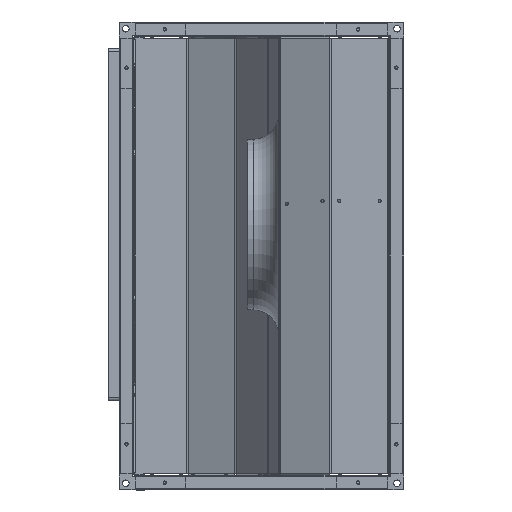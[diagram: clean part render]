
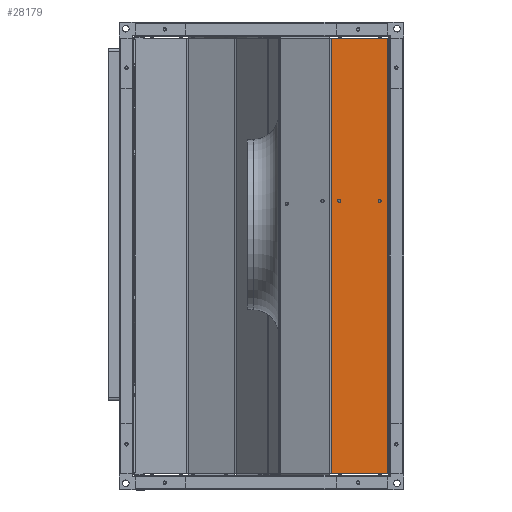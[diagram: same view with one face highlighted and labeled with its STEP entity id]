
A CAD part, left-side view. The second image highlights one B-rep face of the part: STEP entity #28179.
In plain terms, the highlighted planar face has unit normal (-1, 0, 0).
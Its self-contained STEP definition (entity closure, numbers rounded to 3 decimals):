
#240 = EDGE_LOOP ( 'NONE', ( #13519, #13431, #13414, #13433 ) ) ;
#2023 = AXIS2_PLACEMENT_3D ( 'NONE', #31959, #31234, #31221 ) ;
#2112 = AXIS2_PLACEMENT_3D ( 'NONE', #30567, #30565, #30563 ) ;
#2113 = AXIS2_PLACEMENT_3D ( 'NONE', #30560, #30558, #30556 ) ;
#3297 = DIRECTION ( 'NONE',  ( 0., -1., 0. ) ) ;
#3299 = PLANE ( 'NONE',  #26597 ) ;
#3302 = CARTESIAN_POINT ( 'NONE',  ( -293.5, 1., 299. ) ) ;
#3305 = DIRECTION ( 'NONE',  ( -1., 0., 0. ) ) ;
#6883 = EDGE_LOOP ( 'NONE', ( #13498, #13483 ) ) ;
#6958 = EDGE_LOOP ( 'NONE', ( #13443, #13485 ) ) ;
#7971 = VERTEX_POINT ( 'NONE', #25360 ) ;
#8619 = EDGE_CURVE ( 'NONE', #12672, #12896, #14626, .T. ) ;
#8697 = EDGE_CURVE ( 'NONE', #12746, #13327, #14513, .T. ) ;
#8892 = EDGE_CURVE ( 'NONE', #12949, #12746, #14252, .T. ) ;
#9235 = EDGE_CURVE ( 'NONE', #13327, #12010, #13988, .T. ) ;
#9589 = EDGE_CURVE ( 'NONE', #7971, #12769, #13706, .T. ) ;
#9840 = EDGE_CURVE ( 'NONE', #12010, #12949, #32677, .T. ) ;
#9979 = EDGE_CURVE ( 'NONE', #12896, #12672, #32573, .T. ) ;
#9980 = EDGE_CURVE ( 'NONE', #12769, #7971, #32571, .T. ) ;
#10879 = AXIS2_PLACEMENT_3D ( 'NONE', #31324, #31394, #31430 ) ;
#12010 = VERTEX_POINT ( 'NONE', #19380 ) ;
#12672 = VERTEX_POINT ( 'NONE', #19852 ) ;
#12746 = VERTEX_POINT ( 'NONE', #19744 ) ;
#12769 = VERTEX_POINT ( 'NONE', #19728 ) ;
#12896 = VERTEX_POINT ( 'NONE', #19606 ) ;
#12949 = VERTEX_POINT ( 'NONE', #19562 ) ;
#13327 = VERTEX_POINT ( 'NONE', #19436 ) ;
#13414 = ORIENTED_EDGE ( 'NONE', *, *, #8892, .T. ) ;
#13431 = ORIENTED_EDGE ( 'NONE', *, *, #9840, .T. ) ;
#13433 = ORIENTED_EDGE ( 'NONE', *, *, #8697, .T. ) ;
#13443 = ORIENTED_EDGE ( 'NONE', *, *, #9979, .F. ) ;
#13483 = ORIENTED_EDGE ( 'NONE', *, *, #9589, .F. ) ;
#13485 = ORIENTED_EDGE ( 'NONE', *, *, #8619, .F. ) ;
#13498 = ORIENTED_EDGE ( 'NONE', *, *, #9980, .F. ) ;
#13519 = ORIENTED_EDGE ( 'NONE', *, *, #9235, .T. ) ;
#13706 = CIRCLE ( 'NONE', #2023, 2.1 ) ;
#13979 = VECTOR ( 'NONE', #29221, 1000. ) ;
#13988 = LINE ( 'NONE', #29222, #13979 ) ;
#14246 = VECTOR ( 'NONE', #31253, 1000. ) ;
#14252 = LINE ( 'NONE', #31440, #14246 ) ;
#14508 = VECTOR ( 'NONE', #31779, 1000. ) ;
#14513 = LINE ( 'NONE', #31749, #14508 ) ;
#14626 = CIRCLE ( 'NONE', #10879, 2.1 ) ;
#19380 = CARTESIAN_POINT ( 'NONE',  ( -293.5, 3.3, -296.7 ) ) ;
#19436 = CARTESIAN_POINT ( 'NONE',  ( -293.5, 79.859, -296.7 ) ) ;
#19562 = CARTESIAN_POINT ( 'NONE',  ( -293.5, 3.3, 296.7 ) ) ;
#19606 = CARTESIAN_POINT ( 'NONE',  ( -293.5, 11.7, 75.428 ) ) ;
#19728 = CARTESIAN_POINT ( 'NONE',  ( -293.5, 66.7, 75.428 ) ) ;
#19744 = CARTESIAN_POINT ( 'NONE',  ( -293.5, 79.859, 296.7 ) ) ;
#19852 = CARTESIAN_POINT ( 'NONE',  ( -293.5, 15.9, 75.428 ) ) ;
#25360 = CARTESIAN_POINT ( 'NONE',  ( -293.5, 70.9, 75.428 ) ) ;
#26597 = AXIS2_PLACEMENT_3D ( 'NONE', #3302, #3305, #3297 ) ;
#28179 = ADVANCED_FACE ( 'NONE', ( #29871, #29862, #29866 ), #3299, .T. ) ;
#29221 = DIRECTION ( 'NONE',  ( 0., -1., 0. ) ) ;
#29222 = CARTESIAN_POINT ( 'NONE',  ( -293.5, 80.289, -296.7 ) ) ;
#29862 = FACE_BOUND ( 'NONE', #6883, .T. ) ;
#29866 = FACE_OUTER_BOUND ( 'NONE', #240, .T. ) ;
#29871 = FACE_BOUND ( 'NONE', #6958, .T. ) ;
#30556 = DIRECTION ( 'NONE',  ( 0., -1., 0. ) ) ;
#30558 = DIRECTION ( 'NONE',  ( -1., 0., 0. ) ) ;
#30560 = CARTESIAN_POINT ( 'NONE',  ( -293.5, 68.8, 75.428 ) ) ;
#30563 = DIRECTION ( 'NONE',  ( 0., -1., 0. ) ) ;
#30565 = DIRECTION ( 'NONE',  ( -1., 0., 0. ) ) ;
#30567 = CARTESIAN_POINT ( 'NONE',  ( -293.5, 13.8, 75.428 ) ) ;
#31158 = DIRECTION ( 'NONE',  ( 0., 0., 1. ) ) ;
#31181 = CARTESIAN_POINT ( 'NONE',  ( -293.5, 3.3, -297.293 ) ) ;
#31221 = DIRECTION ( 'NONE',  ( 0., -1., 0. ) ) ;
#31234 = DIRECTION ( 'NONE',  ( -1., 0., 0. ) ) ;
#31253 = DIRECTION ( 'NONE',  ( 0., 1., 0. ) ) ;
#31324 = CARTESIAN_POINT ( 'NONE',  ( -293.5, 13.8, 75.428 ) ) ;
#31394 = DIRECTION ( 'NONE',  ( -1., 0., 0. ) ) ;
#31430 = DIRECTION ( 'NONE',  ( 0., -1., 0. ) ) ;
#31440 = CARTESIAN_POINT ( 'NONE',  ( -293.5, 2.707, 296.7 ) ) ;
#31749 = CARTESIAN_POINT ( 'NONE',  ( -293.5, 79.859, 299. ) ) ;
#31779 = DIRECTION ( 'NONE',  ( 0., 0., -1. ) ) ;
#31959 = CARTESIAN_POINT ( 'NONE',  ( -293.5, 68.8, 75.428 ) ) ;
#32571 = CIRCLE ( 'NONE', #2113, 2.1 ) ;
#32573 = CIRCLE ( 'NONE', #2112, 2.1 ) ;
#32672 = VECTOR ( 'NONE', #31158, 1000. ) ;
#32677 = LINE ( 'NONE', #31181, #32672 ) ;
